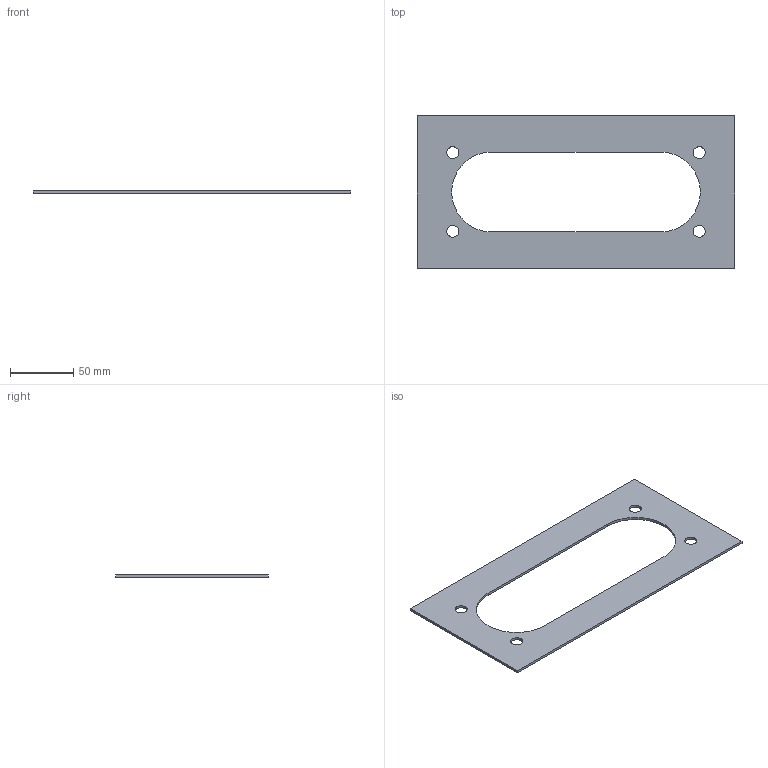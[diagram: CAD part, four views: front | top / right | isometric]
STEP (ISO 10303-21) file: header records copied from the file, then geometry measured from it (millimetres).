
FILE_DESCRIPTION(('STEP AP214'),'1');
FILE_NAME('FL 21 cut-out Rev A.step','2021-06-09T19:33:53',(' '),(' '),'Spatial InterOp 3D',' ',' ');
FILE_SCHEMA(('AUTOMOTIVE_DESIGN { 1 0 10303 214 1 1 1 1 }'));
Length unit declared in the file: millimetre
Products named in the file (1): FL 21 cut_out
Bounding box: 250 x 120 x 2 mm (x, y, z)
Volume: 36440.5 mm3; surface area: 39087.1 mm2
Topology: 1 solids, 1 shells, 16 faces, 44 edges, 30 vertices
Faces by surface type: plane 8, cylinder 8
Full cylindrical faces by diameter (mm): 9.5 x4
Entity records: 646 total; most frequent: DIRECTION 88, CARTESIAN_POINT 83, ORIENTED_EDGE 76, EDGE_CURVE 38, AXIS2_PLACEMENT_3D 33, EDGE_LOOP 30, VERTEX_POINT 28, LINE 22
